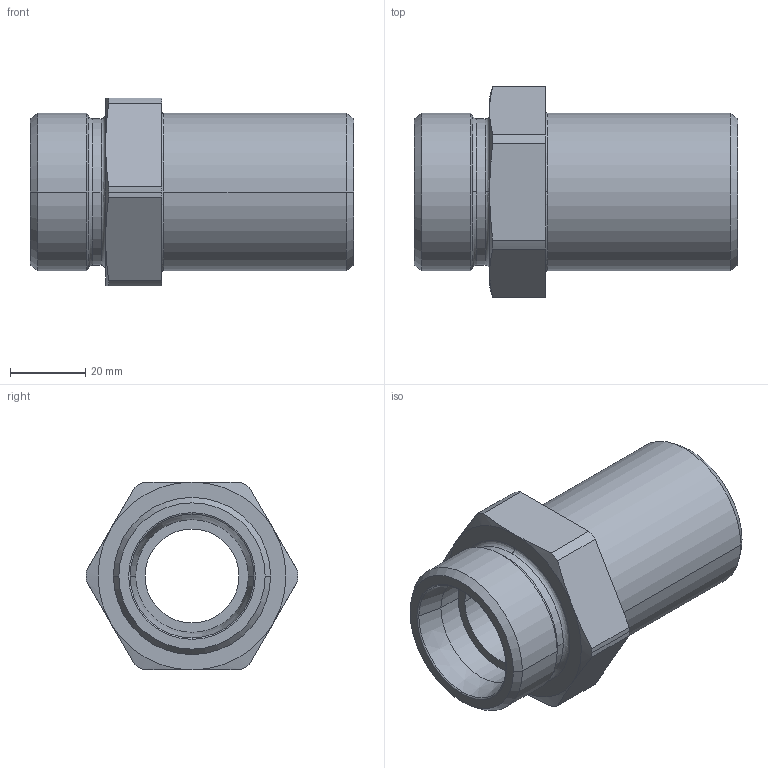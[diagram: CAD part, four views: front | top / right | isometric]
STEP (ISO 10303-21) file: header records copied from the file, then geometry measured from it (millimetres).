
FILE_DESCRIPTION((''),'2;1');
FILE_NAME('103622.stp','2007-10-31T11:38:17',(''),(''),'AutoCAD STEP 2000i','AutoCAD 2000i',', , ');
FILE_SCHEMA(('CONFIG_CONTROL_DESIGN'));
Length unit declared in the file: millimetre
Products named in the file (2): 103622.0; CHIAVE SMUSSX1036#0
Assembly tree (1 placements, depth 2):
  103622.0
    CHIAVE SMUSSX1036#0
Bounding box: 86 x 56.2 x 50 mm (x, y, z)
Volume: 79511.9 mm3; surface area: 22013.2 mm2
Topology: 1 solids, 1 shells, 58 faces, 144 edges, 92 vertices
Faces by surface type: cylinder 20, cone 16, plane 12, bspline 6, torus 4
Entity records: 2103 total; most frequent: CARTESIAN_POINT 584, DIRECTION 330, ORIENTED_EDGE 288, AXIS2_PLACEMENT_3D 144, EDGE_CURVE 144, VERTEX_POINT 92, CIRCLE 90, EDGE_LOOP 64
